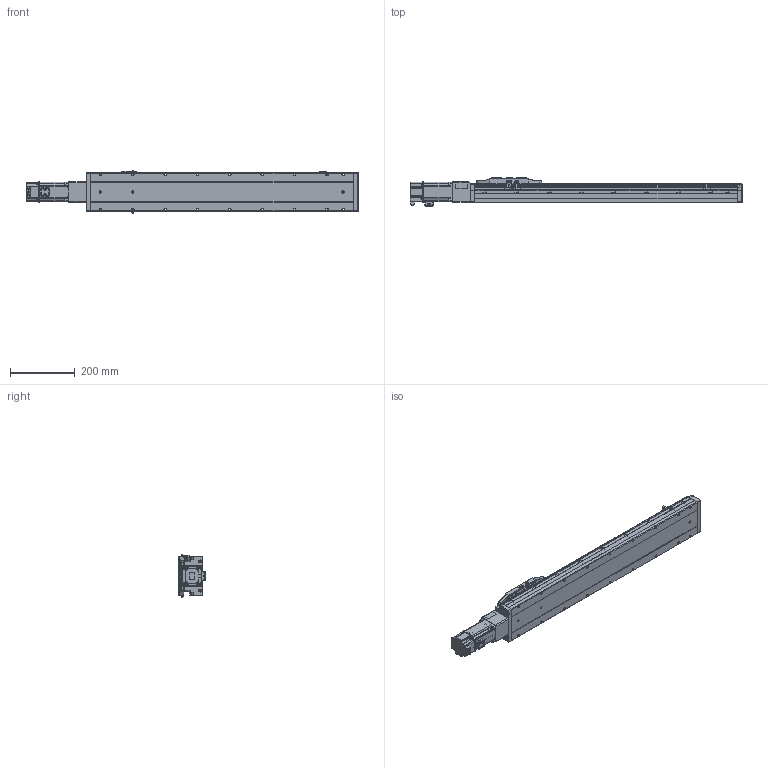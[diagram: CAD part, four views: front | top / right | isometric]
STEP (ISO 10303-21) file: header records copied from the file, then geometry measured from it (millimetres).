
FILE_DESCRIPTION (( 'STEP AP214' ), '1' );
FILE_NAME ('CTH12-L10-S600-BC-C40（简）.STEP', '2023-02-06T05:27:39', ( '' ), ( '' ), 'SwSTEP 2.0', 'SolidWorks 2018', '' );
FILE_SCHEMA (( 'AUTOMOTIVE_DESIGN' ));
Length unit declared in the file: millimetre
Products named in the file (23): 内六角圆柱头螺钉M3-2; 蚐郲; CTH12賑怢郪磁; CTH12-BL_body_4; CTH12底座-L811简（600行程）; CTH12-BC-03_1; CTH12萇儂釱; hex nuts, style 1-grades ab gb_GB_FASTENER_NUT_SNAB1 M3-N; 内六角圆柱头螺钉M3; 400W萇儂; CTH12_body_3; 内六角圆柱头螺钉M3-1; 嫖萇羲壽郪磁1333; CTH嫖萇羲壽假蚾啣; PM-Y45; CTH12覜茼え; 湮賑怢  裔赽-1(CTH12)賑怢; CTH12-BC-06-T40（cth8-bc-06-t40-G）_1; CTH12賑怢ㄗ潠ㄘ; M5蹟隊; CTH12; 嫖萇羲壽郪磁2; CTH12-L10-S600-BC-C40（简）
Assembly tree (43 placements, depth 4):
  CTH12-L10-S600-BC-C40（简）
    CTH12底座-L811简（600行程）
    蚐郲  x2
    CTH12-BL_body_4
    CTH12_body_3
    CTH12賑怢郪磁
      CTH12
        湮賑怢  裔赽-1(CTH12)賑怢
        CTH12賑怢ㄗ潠ㄘ
    CTH12覜茼え
    嫖萇羲壽郪磁2
      CTH嫖萇羲壽假蚾啣
      PM-Y45
      内六角圆柱头螺钉M3-1  x2
      内六角圆柱头螺钉M3-2  x2
      hex nuts, style 1-grades ab gb_GB_FASTENER_NUT_SNAB1 M3-N  x2
    CTH12萇儂釱
      CTH12-BC-03_1
      CTH12-BC-06-T40（cth8-bc-06-t40-G）_1
    嫖萇羲壽郪磁1333  x2
      CTH嫖萇羲壽假蚾啣
      PM-Y45
      内六角圆柱头螺钉M3-2
      内六角圆柱头螺钉M3-1
      hex nuts, style 1-grades ab gb_GB_FASTENER_NUT_SNAB1 M3-N
    内六角圆柱头螺钉M3  x6
    400W萇儂
    M5蹟隊  x4
Bounding box: 1025.8 x 86.5 x 131.52 mm (x, y, z)
Volume: 5827503.3 mm3; surface area: 594116.6 mm2
Topology: 45 solids, 47 shells, 2915 faces, 7229 edges, 4539 vertices
Faces by surface type: plane 1440, cylinder 878, cone 335, bspline 134, torus 124, sphere 4
Entity records: 90424 total; most frequent: CARTESIAN_POINT 30902, ORIENTED_EDGE 11560, DIRECTION 11275, EDGE_CURVE 5780, AXIS2_PLACEMENT_3D 3957, VERTEX_POINT 3643, LINE 3361, VECTOR 3361
